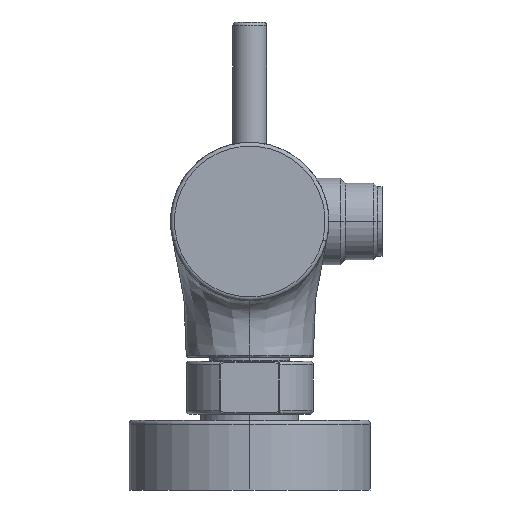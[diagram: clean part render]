
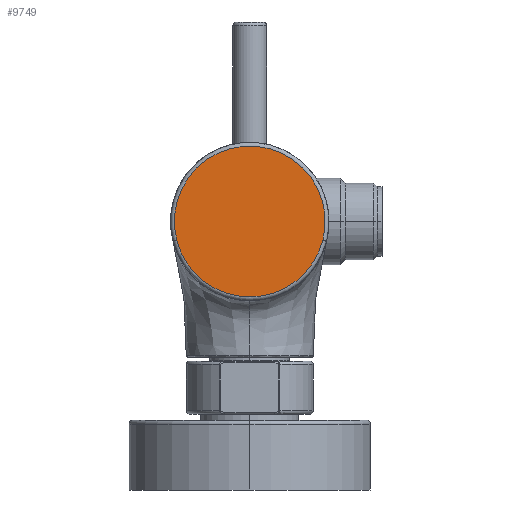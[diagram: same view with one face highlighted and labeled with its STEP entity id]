
A CAD part, left-side view. The second image highlights one B-rep face of the part: STEP entity #9749.
In plain terms, the highlighted planar face has unit normal (-1, 0, 0).
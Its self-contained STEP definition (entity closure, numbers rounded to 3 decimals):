
#1748=CARTESIAN_POINT('',(-101.,0.,0.));
#1749=DIRECTION('',(1.,0.,0.));
#1750=DIRECTION('',(0.,-0.969,-0.249));
#1751=AXIS2_PLACEMENT_3D('',#1748,#1749,#1750);
#1753=CARTESIAN_POINT('',(-101.,0.,0.));
#1754=DIRECTION('',(1.,0.,0.));
#1755=DIRECTION('',(0.,0.969,-0.249));
#1756=AXIS2_PLACEMENT_3D('',#1753,#1754,#1755);
#4117=CARTESIAN_POINT('',(-101.,-19.372,-4.974));
#4118=CARTESIAN_POINT('',(-101.,19.372,-4.974));
#4119=VERTEX_POINT('',#4117);
#4120=VERTEX_POINT('',#4118);
#9740=CARTESIAN_POINT('',(-101.,0.,0.));
#9741=DIRECTION('',(1.,0.,0.));
#9742=DIRECTION('',(0.,-1.,0.));
#9743=AXIS2_PLACEMENT_3D('',#9740,#9741,#9742);
#9744=PLANE('',#9743);
#9745=ORIENTED_EDGE('',*,*,#9719,.T.);
#9746=ORIENTED_EDGE('',*,*,#9734,.T.);
#9747=EDGE_LOOP('',(#9745,#9746));
#9748=FACE_OUTER_BOUND('',#9747,.F.);
#9749=ADVANCED_FACE('',(#9748),#9744,.F.);
#1752=CIRCLE('',#1751,20.);
#1757=CIRCLE('',#1756,20.);
#9719=EDGE_CURVE('',#4119,#4120,#1752,.T.);
#9734=EDGE_CURVE('',#4120,#4119,#1757,.T.);
